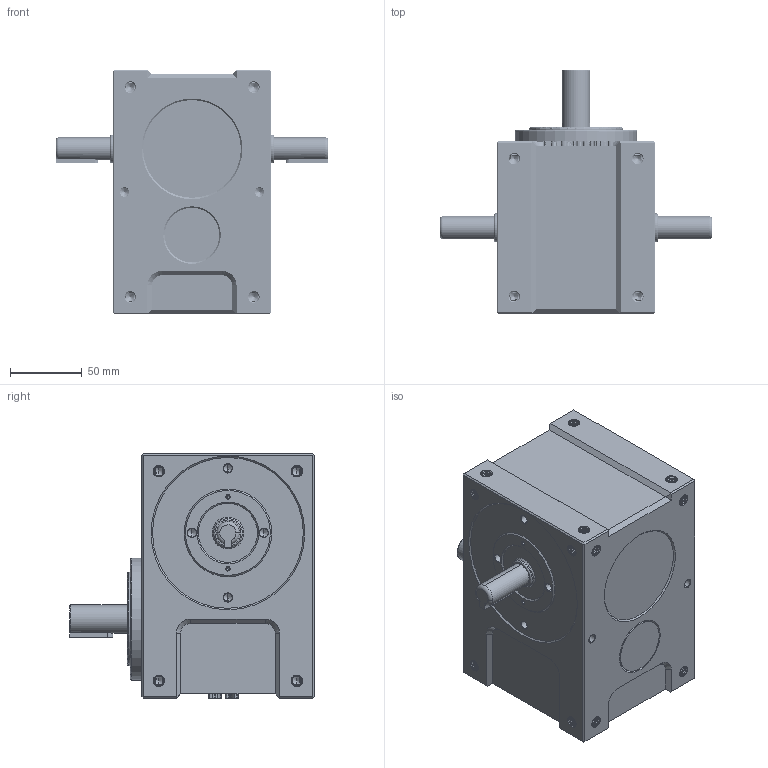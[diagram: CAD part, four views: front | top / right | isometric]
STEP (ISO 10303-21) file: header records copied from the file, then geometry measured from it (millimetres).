
FILE_DESCRIPTION (( 'STEP AP214' ), '1' );
FILE_NAME ('ER-RU60DE英锐凸轮分割器3D壳体和法兰面加销孔标准图纸(电话15062628977)AA.STEP', '2022-10-18T06:34:38', ( '微软用户' ), ( '微软中国' ), 'SwSTEP 2.0', 'SolidWorks 2017', '' );
FILE_SCHEMA (( 'AUTOMOTIVE_DESIGN' ));
Length unit declared in the file: millimetre
Products named in the file (1): ER-RU60DE英锐凸轮分割器3D壳体和法兰面加销孔标准图纸(电话15062628977)AA
Bounding box: 190 x 170 x 170 mm (x, y, z)
Volume: 2209255.9 mm3; surface area: 129246.5 mm2
Topology: 1 solids, 2 shells, 1976 faces, 5201 edges, 3263 vertices
Faces by surface type: cylinder 767, bspline 500, plane 381, cone 312, torus 16
Entity records: 171714 total; most frequent: CARTESIAN_POINT 130990, ORIENTED_EDGE 10214, DIRECTION 5879, EDGE_CURVE 5107, VERTEX_POINT 3263, EDGE_LOOP 2136, AXIS2_PLACEMENT_3D 2035, ADVANCED_FACE 1976
